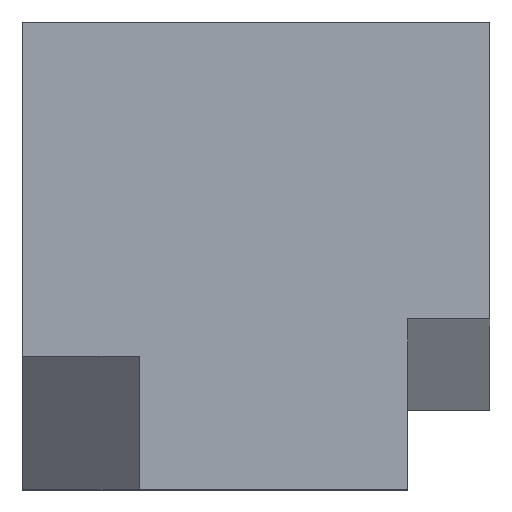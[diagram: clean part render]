
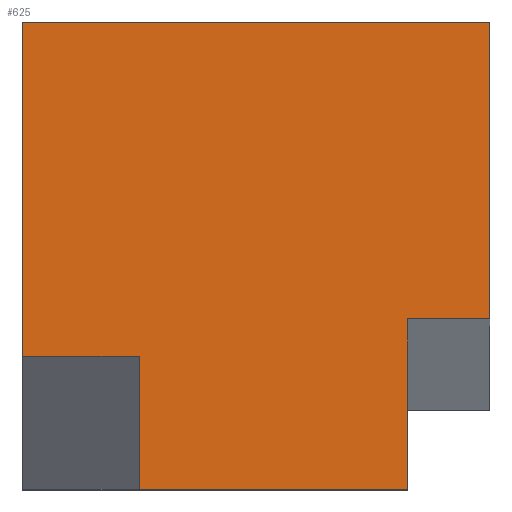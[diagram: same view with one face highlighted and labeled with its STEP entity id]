
A CAD part, top view. The second image highlights one B-rep face of the part: STEP entity #625.
In plain terms, the highlighted planar face has unit normal (0, 0, 1).
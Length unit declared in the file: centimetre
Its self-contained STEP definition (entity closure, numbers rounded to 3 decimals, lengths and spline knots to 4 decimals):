
#14 = EDGE_CURVE ( 'NONE', #345, #314, #661, .T. ) ;
#15 = VECTOR ( 'NONE', #143, 100. ) ;
#41 = ORIENTED_EDGE ( 'NONE', *, *, #437, .T. ) ;
#50 = VECTOR ( 'NONE', #55, 100. ) ;
#55 = DIRECTION ( 'NONE',  ( -1., 0., 0. ) ) ;
#58 = DIRECTION ( 'NONE',  ( 1., 0., 0. ) ) ;
#62 = VECTOR ( 'NONE', #84, 100. ) ;
#70 = CARTESIAN_POINT ( 'NONE',  ( 0., 1000., 1000. ) ) ;
#84 = DIRECTION ( 'NONE',  ( 1., 0., 0. ) ) ;
#89 = ORIENTED_EDGE ( 'NONE', *, *, #649, .T. ) ;
#117 = VECTOR ( 'NONE', #650, 100. ) ;
#119 = DIRECTION ( 'NONE',  ( 0., -1., 0. ) ) ;
#123 = ORIENTED_EDGE ( 'NONE', *, *, #14, .F. ) ;
#136 = CARTESIAN_POINT ( 'NONE',  ( 824.3148, 0., 1000. ) ) ;
#141 = LINE ( 'NONE', #465, #401 ) ;
#143 = DIRECTION ( 'NONE',  ( -1., 0., 0. ) ) ;
#148 = CARTESIAN_POINT ( 'NONE',  ( 250.319, 284.9997, 1000. ) ) ;
#173 = LINE ( 'NONE', #305, #62 ) ;
#177 = AXIS2_PLACEMENT_3D ( 'NONE', #327, #439, #58 ) ;
#204 = FACE_OUTER_BOUND ( 'NONE', #642, .T. ) ;
#225 = ORIENTED_EDGE ( 'NONE', *, *, #494, .T. ) ;
#244 = CARTESIAN_POINT ( 'NONE',  ( 0., 1000., 1000. ) ) ;
#248 = VERTEX_POINT ( 'NONE', #136 ) ;
#249 = EDGE_CURVE ( 'NONE', #395, #248, #296, .T. ) ;
#260 = EDGE_CURVE ( 'NONE', #587, #372, #635, .T. ) ;
#284 = CARTESIAN_POINT ( 'NONE',  ( 824.3148, 364.5767, 1000. ) ) ;
#296 = LINE ( 'NONE', #356, #324 ) ;
#305 = CARTESIAN_POINT ( 'NONE',  ( 824.3148, 364.5767, 1000. ) ) ;
#314 = VERTEX_POINT ( 'NONE', #481 ) ;
#318 = VERTEX_POINT ( 'NONE', #375 ) ;
#324 = VECTOR ( 'NONE', #576, 100. ) ;
#327 = CARTESIAN_POINT ( 'NONE',  ( 0., 0., 1000. ) ) ;
#345 = VERTEX_POINT ( 'NONE', #148 ) ;
#348 = LINE ( 'NONE', #612, #644 ) ;
#356 = CARTESIAN_POINT ( 'NONE',  ( 0., 0., 1000. ) ) ;
#364 = CARTESIAN_POINT ( 'NONE',  ( 1000., 1000., 1000. ) ) ;
#372 = VERTEX_POINT ( 'NONE', #407 ) ;
#374 = VERTEX_POINT ( 'NONE', #284 ) ;
#375 = CARTESIAN_POINT ( 'NONE',  ( 1000., 364.5767, 1000. ) ) ;
#395 = VERTEX_POINT ( 'NONE', #615 ) ;
#401 = VECTOR ( 'NONE', #518, 100. ) ;
#402 = EDGE_CURVE ( 'NONE', #372, #314, #621, .T. ) ;
#407 = CARTESIAN_POINT ( 'NONE',  ( 0., 1000., 1000. ) ) ;
#436 = ORIENTED_EDGE ( 'NONE', *, *, #604, .F. ) ;
#437 = EDGE_CURVE ( 'NONE', #318, #587, #348, .T. ) ;
#439 = DIRECTION ( 'NONE',  ( 0., 0., 1. ) ) ;
#465 = CARTESIAN_POINT ( 'NONE',  ( 824.3148, 0., 1000. ) ) ;
#481 = CARTESIAN_POINT ( 'NONE',  ( 0., 284.9997, 1000. ) ) ;
#485 = PLANE ( 'NONE',  #177 ) ;
#494 = EDGE_CURVE ( 'NONE', #374, #318, #173, .T. ) ;
#495 = LINE ( 'NONE', #700, #117 ) ;
#518 = DIRECTION ( 'NONE',  ( 0., -1., 0. ) ) ;
#548 = CARTESIAN_POINT ( 'NONE',  ( 250.319, 284.9997, 1000. ) ) ;
#550 = ORIENTED_EDGE ( 'NONE', *, *, #260, .T. ) ;
#576 = DIRECTION ( 'NONE',  ( 1., 0., 0. ) ) ;
#587 = VERTEX_POINT ( 'NONE', #364 ) ;
#604 = EDGE_CURVE ( 'NONE', #374, #248, #141, .T. ) ;
#612 = CARTESIAN_POINT ( 'NONE',  ( 1000., 1000., 1000. ) ) ;
#615 = CARTESIAN_POINT ( 'NONE',  ( 250.319, 0., 1000. ) ) ;
#621 = LINE ( 'NONE', #70, #668 ) ;
#625 = ADVANCED_FACE ( 'NONE', ( #204 ), #485, .T. ) ;
#635 = LINE ( 'NONE', #244, #15 ) ;
#639 = ORIENTED_EDGE ( 'NONE', *, *, #402, .T. ) ;
#642 = EDGE_LOOP ( 'NONE', ( #89, #702, #436, #225, #41, #550, #639, #123 ) ) ;
#644 = VECTOR ( 'NONE', #676, 100. ) ;
#649 = EDGE_CURVE ( 'NONE', #345, #395, #495, .T. ) ;
#650 = DIRECTION ( 'NONE',  ( 0., -1., 0. ) ) ;
#661 = LINE ( 'NONE', #548, #50 ) ;
#668 = VECTOR ( 'NONE', #119, 100. ) ;
#676 = DIRECTION ( 'NONE',  ( 0., 1., 0. ) ) ;
#700 = CARTESIAN_POINT ( 'NONE',  ( 250.319, 284.9997, 1000. ) ) ;
#702 = ORIENTED_EDGE ( 'NONE', *, *, #249, .T. ) ;
